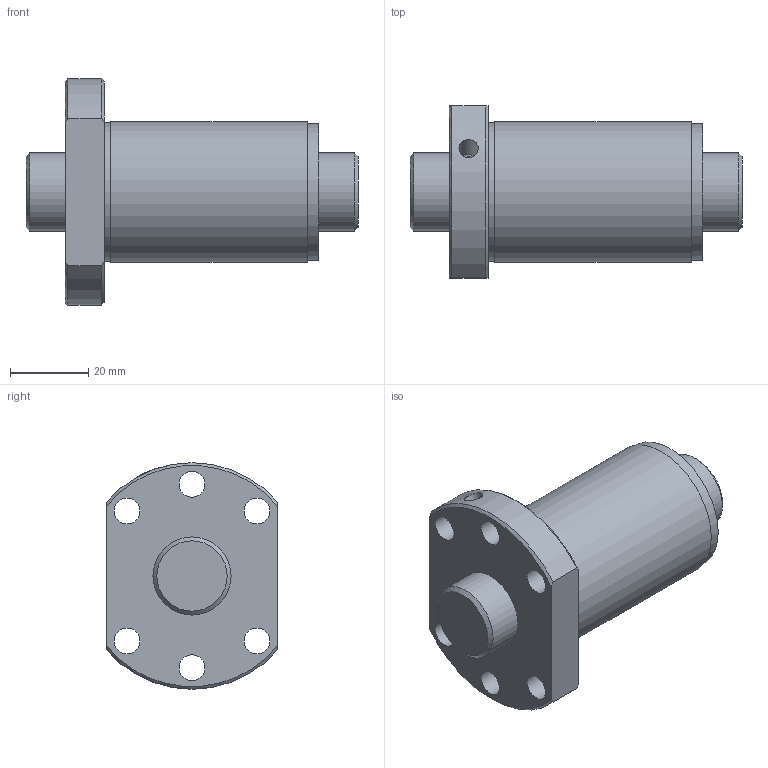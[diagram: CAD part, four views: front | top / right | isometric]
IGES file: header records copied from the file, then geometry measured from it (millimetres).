
Start section: Data from Parasolid IGES Translator 26.0.171, Copyright(c) 2006 Siemens PLM Software. All Rights Reserved.
Global section: file name: SDA2030V-2G0+85LC0(0G000).igs; native system: By Siemens PLM Incorporated; preprocessor: XPlus GENERIC/IGES 26.0.171; author: Noname; organization: Noname; date: 20240528.113020; units: millimetre
Bounding box: 85 x 44 x 58 mm (x, y, z)
Surface area: 22904.3 mm2 (no closed solid volume)
Topology: 0 solids, 0 shells, 31 faces, 156 edges, 140 vertices
Faces by surface type: revolution 22, extrusion 9
